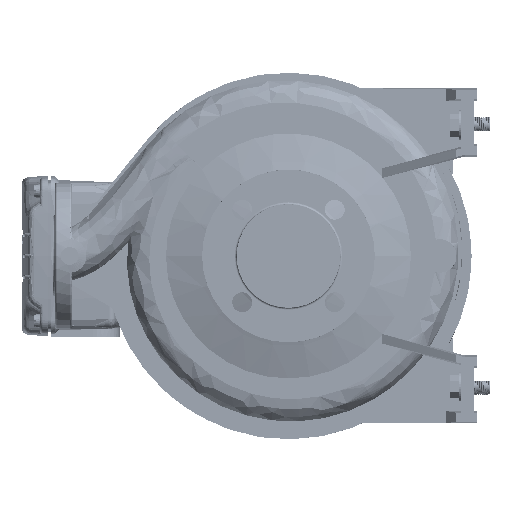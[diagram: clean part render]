
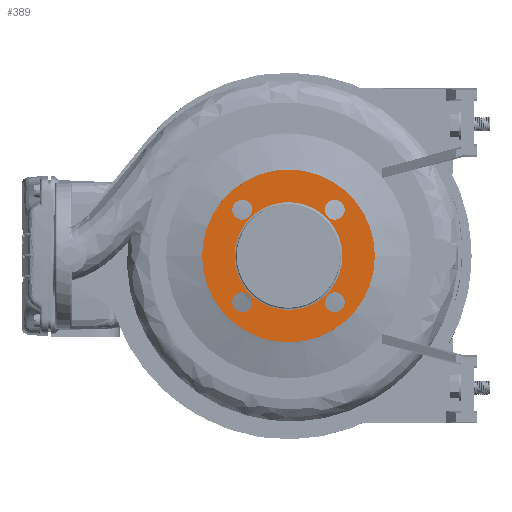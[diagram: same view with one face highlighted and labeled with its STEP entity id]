
A CAD part, left-side view. The second image highlights one B-rep face of the part: STEP entity #389.
In plain terms, the highlighted planar face has unit normal (-1, 0, 0).
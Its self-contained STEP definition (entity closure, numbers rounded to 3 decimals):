
#389 = ADVANCED_FACE ( 'NONE', ( #149632, #219167, #183850, #7192, #165628, #24304 ), #181605, .T. ) ;
#1605 = DIRECTION ( 'NONE',  ( 0., 1., 0. ) ) ;
#4479 = DIRECTION ( 'NONE',  ( -1., 0., 0. ) ) ;
#4820 = DIRECTION ( 'NONE',  ( 0., 1., 0. ) ) ;
#7102 = DIRECTION ( 'NONE',  ( 0., 1., 0. ) ) ;
#7192 = FACE_BOUND ( 'NONE', #63552, .T. ) ;
#8994 = AXIS2_PLACEMENT_3D ( 'NONE', #26460, #24218, #7102 ) ;
#11829 = CARTESIAN_POINT ( 'NONE',  ( -216.468, 176.443, 439.899 ) ) ;
#14674 = VERTEX_POINT ( 'NONE', #75861 ) ;
#16399 = DIRECTION ( 'NONE',  ( 0., 0., -1. ) ) ;
#16516 = DIRECTION ( 'NONE',  ( 1., 0., 0. ) ) ;
#21070 = ORIENTED_EDGE ( 'NONE', *, *, #70931, .F. ) ;
#23438 = EDGE_CURVE ( 'NONE', #203220, #43182, #223382, .T. ) ;
#24218 = DIRECTION ( 'NONE',  ( 1., 0., 0. ) ) ;
#24304 = FACE_OUTER_BOUND ( 'NONE', #209881, .T. ) ;
#24909 = DIRECTION ( 'NONE',  ( 0., 0., 1. ) ) ;
#25352 = EDGE_CURVE ( 'NONE', #56919, #14674, #98415, .T. ) ;
#26460 = CARTESIAN_POINT ( 'NONE',  ( -216.468, 220.637, 395.705 ) ) ;
#28916 = EDGE_CURVE ( 'NONE', #162560, #154136, #50217, .T. ) ;
#29142 = CIRCLE ( 'NONE', #54637, 9.5 ) ;
#30248 = ORIENTED_EDGE ( 'NONE', *, *, #136428, .F. ) ;
#31245 = DIRECTION ( 'NONE',  ( -1., 0., 0. ) ) ;
#32180 = AXIS2_PLACEMENT_3D ( 'NONE', #121329, #35773, #1605 ) ;
#33762 = CARTESIAN_POINT ( 'NONE',  ( -216.468, 185.943, 351.511 ) ) ;
#35337 = CARTESIAN_POINT ( 'NONE',  ( -216.468, 264.831, 351.511 ) ) ;
#35773 = DIRECTION ( 'NONE',  ( 1., 0., 0. ) ) ;
#35979 = CIRCLE ( 'NONE', #225257, 82.5 ) ;
#39914 = ORIENTED_EDGE ( 'NONE', *, *, #137934, .F. ) ;
#40257 = CARTESIAN_POINT ( 'NONE',  ( -216.468, 264.831, 439.899 ) ) ;
#43182 = VERTEX_POINT ( 'NONE', #90456 ) ;
#44744 = DIRECTION ( 'NONE',  ( -1., 0., 0. ) ) ;
#48059 = AXIS2_PLACEMENT_3D ( 'NONE', #130937, #100118, #83002 ) ;
#48156 = CARTESIAN_POINT ( 'NONE',  ( -216.468, 166.943, 351.511 ) ) ;
#50217 = CIRCLE ( 'NONE', #32180, 51.5 ) ;
#50864 = AXIS2_PLACEMENT_3D ( 'NONE', #40257, #57343, #58469 ) ;
#51282 = EDGE_LOOP ( 'NONE', ( #30248, #90906 ) ) ;
#53386 = CARTESIAN_POINT ( 'NONE',  ( -216.468, 169.137, 395.705 ) ) ;
#53802 = DIRECTION ( 'NONE',  ( 1., 0., 0. ) ) ;
#54637 = AXIS2_PLACEMENT_3D ( 'NONE', #56193, #126853, #72157 ) ;
#56193 = CARTESIAN_POINT ( 'NONE',  ( -216.468, 176.443, 351.511 ) ) ;
#56919 = VERTEX_POINT ( 'NONE', #203395 ) ;
#57343 = DIRECTION ( 'NONE',  ( -1., 0., 0. ) ) ;
#58469 = DIRECTION ( 'NONE',  ( 0., -1., 0. ) ) ;
#60814 = ORIENTED_EDGE ( 'NONE', *, *, #199870, .F. ) ;
#61207 = CARTESIAN_POINT ( 'NONE',  ( -216.468, 176.443, 439.899 ) ) ;
#63552 = EDGE_LOOP ( 'NONE', ( #211289, #21070 ) ) ;
#64476 = DIRECTION ( 'NONE',  ( -1., 0., 0. ) ) ;
#69764 = ORIENTED_EDGE ( 'NONE', *, *, #172422, .F. ) ;
#70931 = EDGE_CURVE ( 'NONE', #112734, #107957, #152761, .T. ) ;
#71142 = AXIS2_PLACEMENT_3D ( 'NONE', #61207, #31245, #16399 ) ;
#72157 = DIRECTION ( 'NONE',  ( 0., 1., 0. ) ) ;
#75861 = CARTESIAN_POINT ( 'NONE',  ( -216.468, 255.331, 351.511 ) ) ;
#83002 = DIRECTION ( 'NONE',  ( 0., 1., 0. ) ) ;
#85020 = DIRECTION ( 'NONE',  ( 0., -1., 0. ) ) ;
#86216 = ORIENTED_EDGE ( 'NONE', *, *, #28916, .T. ) ;
#88228 = ORIENTED_EDGE ( 'NONE', *, *, #23438, .F. ) ;
#88920 = DIRECTION ( 'NONE',  ( 0., 0., 1. ) ) ;
#90456 = CARTESIAN_POINT ( 'NONE',  ( -216.468, 138.137, 395.705 ) ) ;
#90906 = ORIENTED_EDGE ( 'NONE', *, *, #25352, .F. ) ;
#93387 = CIRCLE ( 'NONE', #118762, 9.5 ) ;
#93855 = DIRECTION ( 'NONE',  ( 0., -1., 0. ) ) ;
#96735 = CARTESIAN_POINT ( 'NONE',  ( -216.468, 272.137, 395.705 ) ) ;
#98415 = CIRCLE ( 'NONE', #131262, 9.5 ) ;
#98762 = CARTESIAN_POINT ( 'NONE',  ( -216.468, 264.831, 439.899 ) ) ;
#99119 = CARTESIAN_POINT ( 'NONE',  ( -216.468, 185.943, 439.899 ) ) ;
#100118 = DIRECTION ( 'NONE',  ( -1., 0., 0. ) ) ;
#103162 = CARTESIAN_POINT ( 'NONE',  ( -216.468, 220.637, 395.705 ) ) ;
#105351 = EDGE_CURVE ( 'NONE', #107957, #112734, #93387, .T. ) ;
#107883 = AXIS2_PLACEMENT_3D ( 'NONE', #11829, #134901, #168033 ) ;
#107957 = VERTEX_POINT ( 'NONE', #110870 ) ;
#110525 = ORIENTED_EDGE ( 'NONE', *, *, #195424, .F. ) ;
#110870 = CARTESIAN_POINT ( 'NONE',  ( -216.468, 255.331, 439.899 ) ) ;
#112734 = VERTEX_POINT ( 'NONE', #212855 ) ;
#118762 = AXIS2_PLACEMENT_3D ( 'NONE', #98762, #64476, #85020 ) ;
#120814 = VERTEX_POINT ( 'NONE', #193065 ) ;
#121329 = CARTESIAN_POINT ( 'NONE',  ( -216.468, 220.637, 395.705 ) ) ;
#122517 = AXIS2_PLACEMENT_3D ( 'NONE', #183351, #4479, #24909 ) ;
#124052 = AXIS2_PLACEMENT_3D ( 'NONE', #215804, #44744, #93855 ) ;
#124650 = EDGE_LOOP ( 'NONE', ( #69764, #194372 ) ) ;
#126853 = DIRECTION ( 'NONE',  ( -1., 0., 0. ) ) ;
#130937 = CARTESIAN_POINT ( 'NONE',  ( -216.468, 176.443, 351.511 ) ) ;
#131262 = AXIS2_PLACEMENT_3D ( 'NONE', #35337, #140187, #88920 ) ;
#134901 = DIRECTION ( 'NONE',  ( -1., 0., 0. ) ) ;
#136402 = CIRCLE ( 'NONE', #8994, 51.5 ) ;
#136428 = EDGE_CURVE ( 'NONE', #14674, #56919, #206164, .T. ) ;
#137934 = EDGE_CURVE ( 'NONE', #157928, #120814, #140532, .T. ) ;
#140187 = DIRECTION ( 'NONE',  ( -1., 0., 0. ) ) ;
#140532 = CIRCLE ( 'NONE', #107883, 9.5 ) ;
#149632 = FACE_BOUND ( 'NONE', #51282, .T. ) ;
#152761 = CIRCLE ( 'NONE', #50864, 9.5 ) ;
#154136 = VERTEX_POINT ( 'NONE', #96735 ) ;
#157928 = VERTEX_POINT ( 'NONE', #99119 ) ;
#161009 = CARTESIAN_POINT ( 'NONE',  ( -216.468, 220.637, 395.705 ) ) ;
#162560 = VERTEX_POINT ( 'NONE', #53386 ) ;
#165628 = FACE_BOUND ( 'NONE', #170937, .T. ) ;
#168033 = DIRECTION ( 'NONE',  ( 0., 0., -1. ) ) ;
#169485 = CIRCLE ( 'NONE', #71142, 9.5 ) ;
#170937 = EDGE_LOOP ( 'NONE', ( #171126, #86216 ) ) ;
#171126 = ORIENTED_EDGE ( 'NONE', *, *, #194756, .T. ) ;
#172422 = EDGE_CURVE ( 'NONE', #218408, #189646, #29142, .T. ) ;
#181605 = PLANE ( 'NONE',  #124052 ) ;
#183351 = CARTESIAN_POINT ( 'NONE',  ( -216.468, 264.831, 351.511 ) ) ;
#183850 = FACE_BOUND ( 'NONE', #184253, .T. ) ;
#184253 = EDGE_LOOP ( 'NONE', ( #110525, #39914 ) ) ;
#187548 = DIRECTION ( 'NONE',  ( 0., 1., 0. ) ) ;
#189646 = VERTEX_POINT ( 'NONE', #33762 ) ;
#193065 = CARTESIAN_POINT ( 'NONE',  ( -216.468, 166.943, 439.899 ) ) ;
#194372 = ORIENTED_EDGE ( 'NONE', *, *, #216743, .F. ) ;
#194756 = EDGE_CURVE ( 'NONE', #154136, #162560, #136402, .T. ) ;
#195424 = EDGE_CURVE ( 'NONE', #120814, #157928, #169485, .T. ) ;
#199870 = EDGE_CURVE ( 'NONE', #43182, #203220, #35979, .T. ) ;
#203220 = VERTEX_POINT ( 'NONE', #218242 ) ;
#203395 = CARTESIAN_POINT ( 'NONE',  ( -216.468, 274.331, 351.511 ) ) ;
#206164 = CIRCLE ( 'NONE', #122517, 9.5 ) ;
#209881 = EDGE_LOOP ( 'NONE', ( #88228, #60814 ) ) ;
#211289 = ORIENTED_EDGE ( 'NONE', *, *, #105351, .F. ) ;
#212505 = AXIS2_PLACEMENT_3D ( 'NONE', #103162, #16516, #187548 ) ;
#212855 = CARTESIAN_POINT ( 'NONE',  ( -216.468, 274.331, 439.899 ) ) ;
#215556 = CIRCLE ( 'NONE', #48059, 9.5 ) ;
#215804 = CARTESIAN_POINT ( 'NONE',  ( -216.468, 272.137, 395.705 ) ) ;
#216743 = EDGE_CURVE ( 'NONE', #189646, #218408, #215556, .T. ) ;
#218242 = CARTESIAN_POINT ( 'NONE',  ( -216.468, 303.137, 395.705 ) ) ;
#218408 = VERTEX_POINT ( 'NONE', #48156 ) ;
#219167 = FACE_BOUND ( 'NONE', #124650, .T. ) ;
#223382 = CIRCLE ( 'NONE', #212505, 82.5 ) ;
#225257 = AXIS2_PLACEMENT_3D ( 'NONE', #161009, #53802, #4820 ) ;
